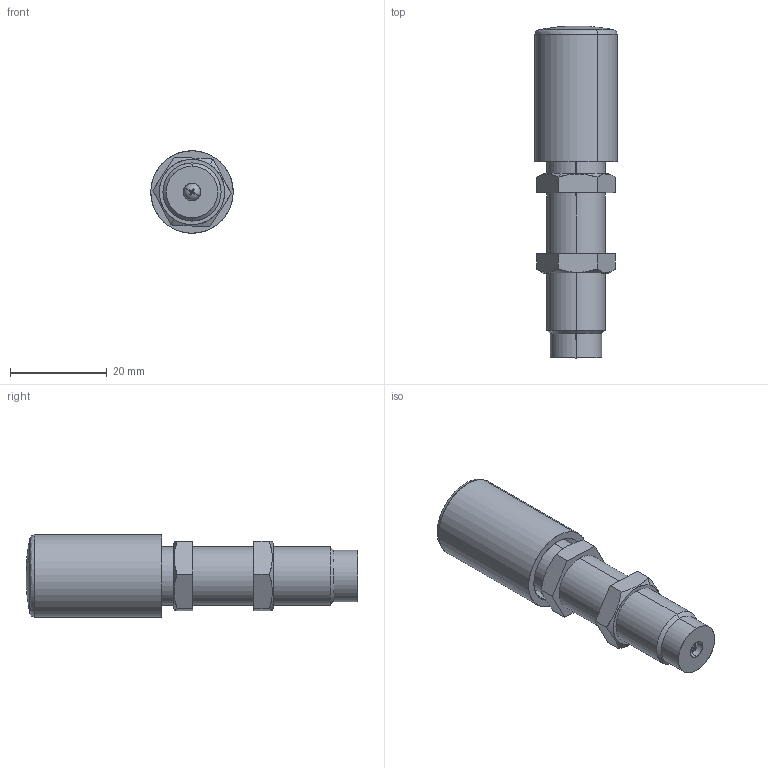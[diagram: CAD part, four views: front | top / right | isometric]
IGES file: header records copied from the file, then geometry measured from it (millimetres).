
Start section: SolidWorks IGES file using analytic representation for surfaces
Global section: file name: Y:\CAD\HP梡CAD僨乕僞\210305_HP峏怴梡\3D\FA-1210KB仩-C-060.IGS; native system: SolidWorks 2021; preprocessor: SolidWorks 2021; author: flgijutsu; date: 210310.143627; units: millimetre
Bounding box: 16.99 x 68.5 x 17 mm (x, y, z)
Surface area: 5090.4 mm2 (no closed solid volume)
Topology: 0 solids, 0 shells, 49 faces, 712 edges, 711 vertices
Faces by surface type: bspline 29, revolution 20
